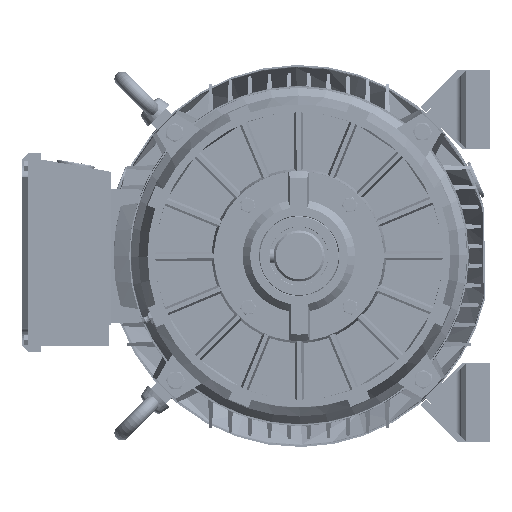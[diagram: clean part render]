
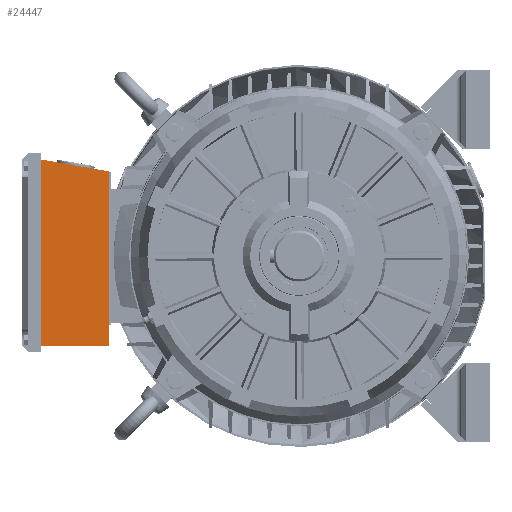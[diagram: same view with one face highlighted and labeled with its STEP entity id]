
A CAD part, left-side view. The second image highlights one B-rep face of the part: STEP entity #24447.
In plain terms, the highlighted planar face has unit normal (-1, 0, 0) as drawn and (0, 1, 0) by its records, which use the part's own axes.
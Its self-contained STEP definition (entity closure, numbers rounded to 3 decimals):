
#23962 = VERTEX_POINT ( 'NONE', #184895 ) ;
#23978 = EDGE_CURVE ( 'NONE', #23962, #24094, #184940, .T. ) ;
#24094 = VERTEX_POINT ( 'NONE', #185064 ) ;
#24278 = ORIENTED_EDGE ( 'NONE', *, *, #24279, .F. ) ;
#24279 = EDGE_CURVE ( 'NONE', #24345, #23962, #185203, .T. ) ;
#24288 = ORIENTED_EDGE ( 'NONE', *, *, #24342, .T. ) ;
#24329 = VERTEX_POINT ( 'NONE', #185291 ) ;
#24342 = EDGE_CURVE ( 'NONE', #24345, #24329, #185272, .T. ) ;
#24345 = VERTEX_POINT ( 'NONE', #185268 ) ;
#24349 = ORIENTED_EDGE ( 'NONE', *, *, #24351, .T. ) ;
#24351 = EDGE_CURVE ( 'NONE', #24329, #24094, #185267, .T. ) ;
#24358 = ORIENTED_EDGE ( 'NONE', *, *, #23978, .F. ) ;
#24447 = ADVANCED_FACE ( 'NONE', ( #185363 ), #185362, .F. ) ;
#24452 = EDGE_LOOP ( 'NONE', ( #24349, #24358, #24278, #24288 ) ) ;
#184895 = CARTESIAN_POINT ( 'NONE',  ( -84.35, 76., 64. ) ) ;
#184937 = DIRECTION ( 'NONE',  ( 0., 0., -1. ) ) ;
#184938 = VECTOR ( 'NONE', #184937, 1000. ) ;
#184939 = CARTESIAN_POINT ( 'NONE',  ( -84.35, 76., 64. ) ) ;
#184940 = LINE ( 'NONE', #184939, #184938 ) ;
#185064 = CARTESIAN_POINT ( 'NONE',  ( -84.35, 76., 0. ) ) ;
#185200 = DIRECTION ( 'NONE',  ( -1., 0., 0. ) ) ;
#185201 = VECTOR ( 'NONE', #185200, 1000. ) ;
#185202 = CARTESIAN_POINT ( 'NONE',  ( -84.35, 76., 64. ) ) ;
#185203 = LINE ( 'NONE', #185202, #185201 ) ;
#185267 = LINE ( 'NONE', #185323, #185322 ) ;
#185268 = CARTESIAN_POINT ( 'NONE',  ( 80.35, 76., 64. ) ) ;
#185269 = DIRECTION ( 'NONE',  ( 0.174, 0., -0.985 ) ) ;
#185270 = VECTOR ( 'NONE', #185269, 1000. ) ;
#185271 = CARTESIAN_POINT ( 'NONE',  ( 75.384, 76., 92.165 ) ) ;
#185272 = LINE ( 'NONE', #185271, #185270 ) ;
#185291 = CARTESIAN_POINT ( 'NONE',  ( 91.635, 76., 0. ) ) ;
#185321 = DIRECTION ( 'NONE',  ( -1., 0., 0. ) ) ;
#185322 = VECTOR ( 'NONE', #185321, 1000. ) ;
#185323 = CARTESIAN_POINT ( 'NONE',  ( -84.35, 76., 0. ) ) ;
#185358 = DIRECTION ( 'NONE',  ( 0., -1., 0. ) ) ;
#185359 = AXIS2_PLACEMENT_3D ( 'NONE', #185361, #185358, #185419 ) ;
#185361 = CARTESIAN_POINT ( 'NONE',  ( -84.35, 76., 64. ) ) ;
#185362 = PLANE ( 'NONE',  #185359 ) ;
#185363 = FACE_OUTER_BOUND ( 'NONE', #24452, .T. ) ;
#185419 = DIRECTION ( 'NONE',  ( 0., 0., -1. ) ) ;
